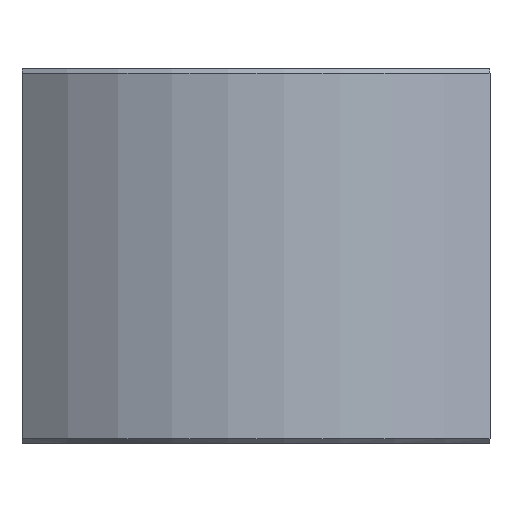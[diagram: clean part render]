
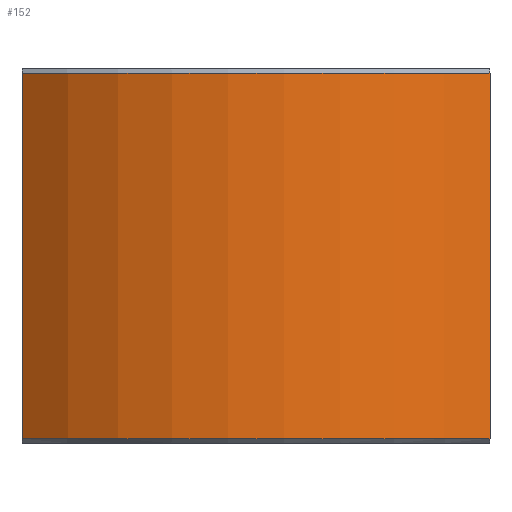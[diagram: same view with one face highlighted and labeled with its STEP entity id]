
A CAD part, left-side view. The second image highlights one B-rep face of the part: STEP entity #152.
In plain terms, the highlighted cylindrical face has radius 38 mm (diameter 76 mm), a partial arc.
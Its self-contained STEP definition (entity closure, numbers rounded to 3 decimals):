
#152=ADVANCED_FACE('',(#547),#549,.T.);
#547=FACE_BOUND('',#548,.T.);
#548=EDGE_LOOP('',(#865,#866,#867,#868));
#549=CYLINDRICAL_SURFACE('',#550,38.);
#550=AXIS2_PLACEMENT_3D('',#551,#552,#553);
#551=CARTESIAN_POINT('',(0.,0.,-20.));
#552=DIRECTION('',(0.,0.,1.));
#553=DIRECTION('',(-0.753,0.658,0.));
#865=ORIENTED_EDGE('',*,*,#942,.T.);
#866=ORIENTED_EDGE('',*,*,#934,.T.);
#867=ORIENTED_EDGE('',*,*,#963,.F.);
#868=ORIENTED_EDGE('',*,*,#965,.F.);
#934=EDGE_CURVE('',#986,#998,#1000,.T.);
#942=EDGE_CURVE('',#1015,#986,#1016,.T.);
#963=EDGE_CURVE('',#1051,#998,#1052,.T.);
#965=EDGE_CURVE('',#1015,#1051,#1054,.T.);
#986=VERTEX_POINT('',#1094);
#998=VERTEX_POINT('',#1136);
#1000=LINE('',#1146,#1147);
#1015=VERTEX_POINT('',#1184);
#1016=CIRCLE('',#1185,38.);
#1051=VERTEX_POINT('',#1295);
#1052=CIRCLE('',#1296,38.);
#1054=LINE('',#1309,#1310);
#1094=CARTESIAN_POINT('',(-28.618,-25.,-19.5));
#1136=CARTESIAN_POINT('',(-28.618,-25.,19.5));
#1146=CARTESIAN_POINT('',(-28.618,-25.,-19.5));
#1147=VECTOR('',#1148,1.);
#1148=DIRECTION('',(0.,0.,1.));
#1184=CARTESIAN_POINT('',(-28.618,25.,-19.5));
#1185=AXIS2_PLACEMENT_3D('',#1186,#1187,#1188);
#1186=CARTESIAN_POINT('',(0.,0.,-19.5));
#1187=DIRECTION('',(0.,0.,1.));
#1188=DIRECTION('',(-0.753,0.658,0.));
#1295=CARTESIAN_POINT('',(-28.618,25.,19.5));
#1296=AXIS2_PLACEMENT_3D('',#1297,#1298,#1299);
#1297=CARTESIAN_POINT('',(0.,0.,19.5));
#1298=DIRECTION('',(0.,0.,1.));
#1299=DIRECTION('',(-0.753,0.658,0.));
#1309=CARTESIAN_POINT('',(-28.618,25.,-19.5));
#1310=VECTOR('',#1311,1.);
#1311=DIRECTION('',(0.,0.,1.));
